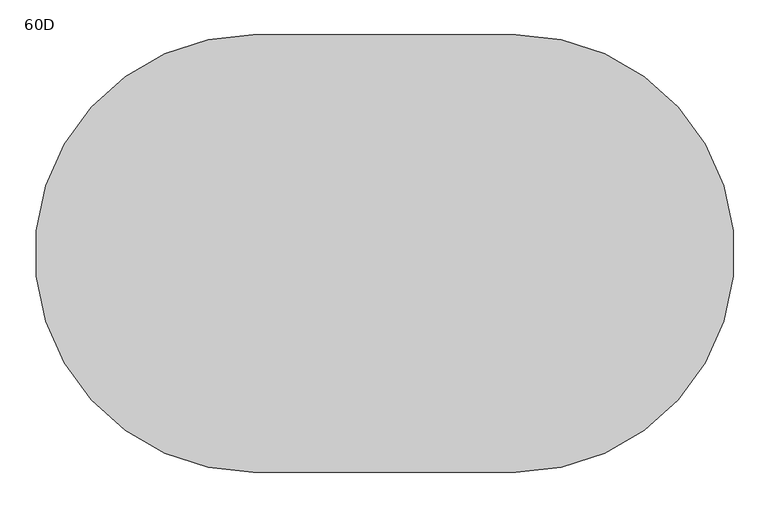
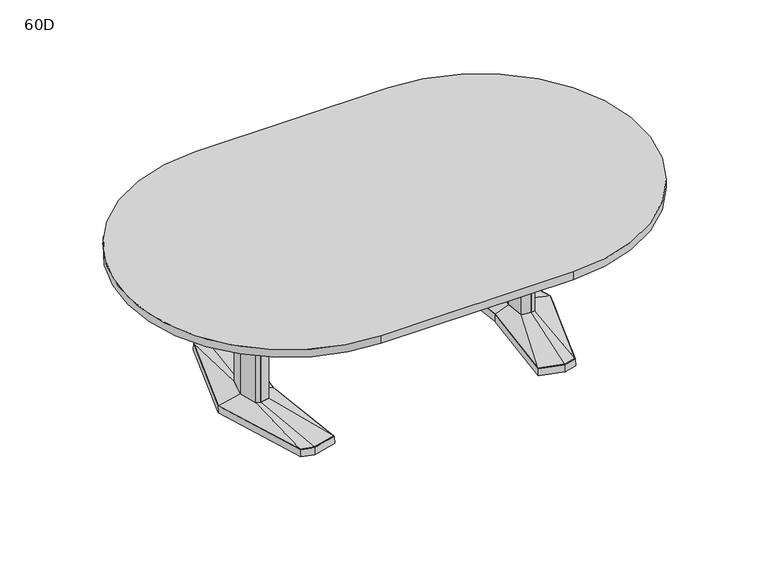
"""IFC4 building model written with IfcOpenShell, lengths in millimetres: furniture geometry, Coalesse_AM_Table_Conference_ETable2_Racetrack_96in_AluminiumBase : 60D."""

from ifc_helpers import new_model, si_unit, point, frame, frame_2d, origin, place, context, project, spatial, polyline, circle_curve, trimmed, segment, composite_curve, outline, extrude, faceted_brep, source, transform, mapped, element, save
from ifc_brep_helpers import plane_surface, spline_surface, advanced_brep


def furniture_60d_fc82c83b(model_context):
    return source(origin(), model_context, "Body", "SolidModel", [
        faceted_brep([(594.6806835, 455.5848221, 38.1), (485.1031277, 426.2263816, 38.1), (526.2663717, 0.0, 38.1), (485.1031277, -426.2263816, 38.1), (594.6806835, -455.5848221, 38.1), (650.8070396, -440.5478297, 38.1), (788.1184269, 0.0, 38.1), (650.8070396, 440.5478297, 38.1), (594.6806754, 457.2283104, 3.175), (652.0624472, 441.8549756, 3.175), (789.78125, 0.0, 3.175), (652.0624472, -441.8549756, 3.175), (594.6806754, -457.2283104, 3.175), (483.39375, -427.4118891, 3.175), (524.6714856, 0.0, 3.175), (483.39375, 427.4118891, 3.175), (598.270115, 428.3273875, 3.175), (493.2218228, 402.1057253, 3.175), (501.340518, 377.985069, 3.175), (601.8595466, 401.0699529, 3.175), (652.4191725, 387.524361, 3.175), (651.6131061, 414.0360954, 3.175), (598.270115, -428.3273875, 3.175), (651.6131061, -414.0360954, 3.175), (652.4191725, -387.524361, 3.175), (601.8595466, -401.0699529, 3.175), (501.340518, -377.985069, 3.175), (493.2218228, -402.1057253, 3.175), (724.8653621, 0.0, 3.175), (692.5959611, 120.4193755, 3.175), (643.9487222, 133.471665, 3.175), (564.0680526, 119.4176561, 3.175), (552.9368466, 0.0, 3.175), (564.0680526, -119.4176561, 3.175), (643.9487222, -133.471665, 3.175), (692.5959611, -120.4193755, 3.175), (598.270115, 428.3273875, 0.0), (651.6131061, 414.0360954, 0.0), (652.4191725, 387.524361, 0.0), (601.8595466, 401.0699529, 0.0), (501.340518, 377.985069, 0.0), (493.2218228, 402.1057253, 0.0), (598.270115, -428.3273875, 0.0), (493.2218228, -402.1057253, 0.0), (501.340518, -377.985069, 0.0), (601.8595466, -401.0699529, 0.0), (652.4191725, -387.524361, 0.0), (651.6131061, -414.0360954, 0.0), (724.8653621, 0.0, 0.0), (692.5959611, -120.4193755, 0.0), (643.9487222, -133.471665, 0.0), (564.0680526, -119.4176561, 0.0), (552.9368466, 0.0, 0.0), (564.0680526, 119.4176561, 0.0), (643.9487222, 133.471665, 0.0), (692.5959611, 120.4193755, 0.0)], [[[0, 1, 2, 3, 4, 5, 6, 7]], [[8, 9, 10, 11, 12, 13, 14, 15], [16, 17, 18, 19, 20, 21], [22, 23, 24, 25, 26, 27], [28, 29, 30, 31, 32, 33, 34, 35]], [[7, 9, 8, 0]], [[6, 10, 9, 7]], [[5, 11, 10, 6]], [[4, 12, 11, 5]], [[3, 13, 12, 4]], [[2, 14, 13, 3]], [[1, 15, 14, 2]], [[0, 8, 15, 1]], [[36, 37, 38, 39, 40, 41]], [[42, 43, 44, 45, 46, 47]], [[48, 49, 50, 51, 52, 53, 54, 55]], [[36, 16, 21, 37]], [[37, 21, 20, 38]], [[38, 20, 19, 39]], [[39, 19, 18, 40]], [[40, 18, 17, 41]], [[41, 17, 16, 36]], [[42, 22, 27, 43]], [[43, 27, 26, 44]], [[44, 26, 25, 45]], [[45, 25, 24, 46]], [[46, 24, 23, 47]], [[47, 23, 22, 42]], [[48, 28, 35, 49]], [[49, 35, 34, 50]], [[50, 34, 33, 51]], [[51, 33, 32, 52]], [[52, 32, 31, 53]], [[53, 31, 30, 54]], [[54, 30, 29, 55]], [[55, 29, 28, 48]]]),
        faceted_brep([(685.4210836, 0.0, 698.5), (661.4858546, 89.3188359, 698.5), (644.6324984, 93.8406728, 698.5), (642.2326511, 94.4845635, 698.5), (599.305146, 86.9320037, 698.5), (591.2020056, 0.0, 698.5), (599.305146, -86.9320037, 698.5), (642.2326511, -94.4845635, 698.5), (644.6324984, -93.8406728, 698.5), (661.4858546, -89.3188359, 698.5), (685.4210836, 0.0, 63.5), (661.4858546, -89.3188359, 63.5), (644.6324984, -93.8406728, 63.5), (642.2326511, -94.4845635, 63.5), (599.305146, -86.9320037, 63.5), (591.2020056, 0.0, 63.5), (599.305146, 86.9320037, 63.5), (642.2326511, 94.4845635, 63.5), (644.6324984, 93.8406728, 63.5), (661.4858546, 89.3188359, 63.5)], [[[0, 1, 2, 3, 4, 5, 6, 7, 8, 9]], [[10, 11, 12, 13, 14, 15, 16, 17, 18, 19]], [[9, 11, 10, 0]], [[8, 12, 11, 9]], [[7, 13, 12, 8]], [[6, 14, 13, 7]], [[5, 15, 14, 6]], [[4, 16, 15, 5]], [[3, 17, 16, 4]], [[2, 18, 17, 3]], [[1, 19, 18, 2]], [[0, 10, 19, 1]]]),
        advanced_brep(
        [(642.2326511, 94.4845635, 63.5), (599.305146, 86.9320037, 63.5), (591.2020056, 0.0, 63.5), (599.305146, -86.9320037, 63.5), (642.2326511, -94.4845635, 63.5), (661.4858546, -89.3188359, 63.5), (685.4210836, 0.0, 63.5), (661.4858546, 89.3188359, 63.5), (594.6806835, 455.5848221, 38.1), (650.8070396, 440.5478297, 38.1), (788.1184269, 0.0, 38.1), (650.8070396, -440.5478297, 38.1), (594.6806835, -455.5848221, 38.1), (485.1031277, -426.2263816, 38.1), (526.2663717, 0.0, 38.1), (485.1031277, 426.2263816, 38.1)],
        [
            (0, 1),
            (1, 2),
            (2, 3),
            (3, 4),
            (4, 5),
            (5, 6),
            (6, 7),
            (7, 0),
            (8, 9),
            (9, 10),
            (10, 11),
            (11, 12),
            (12, 13),
            (13, 14),
            (14, 15),
            (15, 8),
            (8, 0),
            (7, 9),
            (6, 10),
            (5, 11),
            (4, 12),
            (3, 13),
            (2, 14),
            (1, 15),
        ],
        [
            plane_surface(frame((635.3337991, 0.0, 63.5), z_axis=(0.0, 0.0, 1.0), x_axis=(-0.25884244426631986, -0.9659195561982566, 0.0))),
            plane_surface(frame((596.9458125, 0.0, 38.1), z_axis=(0.0, 0.0, -1.0), x_axis=(-0.25884244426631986, -0.9659195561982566, 0.0))),
            spline_surface(1, 1, [[(594.6806835, 455.5848221, 38.1), (650.8070396, 440.5478297, 38.1)], [(642.2326511, 94.4845635, 63.5), (661.4858546, 89.3188359, 63.5)]], [2, 2], [2, 2], [0.0, 1.0], [0.0, 1.0]),
            spline_surface(1, 1, [[(650.8070396, 440.5478297, 38.1), (788.1184269, 0.0, 38.1)], [(661.4858546, 89.3188359, 63.5), (685.4210836, 0.0, 63.5)]], [2, 2], [2, 2], [0.0, 1.0], [0.0, 1.0]),
            spline_surface(1, 1, [[(788.1184269, 0.0, 38.1), (650.8070396, -440.5478297, 38.1)], [(685.4210836, 0.0, 63.5), (661.4858546, -89.3188359, 63.5)]], [2, 2], [2, 2], [0.0, 1.0], [0.0, 1.0]),
            spline_surface(1, 1, [[(650.8070396, -440.5478297, 38.1), (594.6806835, -455.5848221, 38.1)], [(661.4858546, -89.3188359, 63.5), (642.2326511, -94.4845635, 63.5)]], [2, 2], [2, 2], [0.0, 1.0], [0.0, 1.0]),
            spline_surface(1, 1, [[(594.6806835, -455.5848221, 38.1), (485.1031277, -426.2263816, 38.1)], [(642.2326511, -94.4845635, 63.5), (599.305146, -86.9320037, 63.5)]], [2, 2], [2, 2], [0.0, 1.0], [0.0, 1.0]),
            spline_surface(1, 1, [[(485.1031277, -426.2263816, 38.1), (526.2663717, 0.0, 38.1)], [(599.305146, -86.9320037, 63.5), (591.2020056, 0.0, 63.5)]], [2, 2], [2, 2], [0.0, 1.0], [0.0, 1.0]),
            spline_surface(1, 1, [[(526.2663717, 0.0, 38.1), (485.1031277, 426.2263816, 38.1)], [(591.2020056, 0.0, 63.5), (599.305146, 86.9320037, 63.5)]], [2, 2], [2, 2], [0.0, 1.0], [0.0, 1.0]),
            spline_surface(1, 1, [[(485.1031277, 426.2263816, 38.1), (594.6806835, 455.5848221, 38.1)], [(599.305146, 86.9320037, 63.5), (642.2326511, 94.4845635, 63.5)]], [2, 2], [2, 2], [0.0, 1.0], [0.0, 1.0]),
        ],
        [
            (0, [[1, 2, 3, 4, 5, 6, 7, 8]]),
            (1, [[9, 10, 11, 12, 13, 14, 15, 16]]),
            (2, [[17, -8, 18, -9]]),
            (3, [[-18, -7, 19, -10]]),
            (4, [[-19, -6, 20, -11]]),
            (5, [[-20, -5, 21, -12]]),
            (6, [[-21, -4, 22, -13]]),
            (7, [[-22, -3, 23, -14]]),
            (8, [[-23, -2, 24, -15]]),
            (9, [[-24, -1, -17, -16]]),
        ],
    ),
        faceted_brep([(-594.6806835, 455.5848221, 38.1), (-650.8070396, 440.5478297, 38.1), (-788.1184269, 0.0, 38.1), (-650.8070396, -440.5478297, 38.1), (-594.6806835, -455.5848221, 38.1), (-485.1031277, -426.2263816, 38.1), (-526.2663717, 0.0, 38.1), (-485.1031277, 426.2263816, 38.1), (-594.6806754, 457.2283104, 3.175), (-483.39375, 427.4118891, 3.175), (-524.6714856, 0.0, 3.175), (-483.39375, -427.4118891, 3.175), (-594.6806754, -457.2283104, 3.175), (-652.0624472, -441.8549756, 3.175), (-789.78125, 0.0, 3.175), (-652.0624472, 441.8549756, 3.175), (-598.270115, 428.3273875, 3.175), (-651.6131061, 414.0360954, 3.175), (-652.4191725, 387.524361, 3.175), (-601.8595466, 401.0699529, 3.175), (-501.340518, 377.985069, 3.175), (-493.2218228, 402.1057253, 3.175), (-598.270115, -428.3273875, 3.175), (-493.2218228, -402.1057253, 3.175), (-501.340518, -377.985069, 3.175), (-601.8595466, -401.0699529, 3.175), (-652.4191725, -387.524361, 3.175), (-651.6131061, -414.0360954, 3.175), (-724.8653621, 0.0, 3.175), (-692.5959611, -120.4193755, 3.175), (-643.9487222, -133.471665, 3.175), (-564.0680526, -119.4176561, 3.175), (-552.9368466, 0.0, 3.175), (-564.0680526, 119.4176561, 3.175), (-643.9487222, 133.471665, 3.175), (-692.5959611, 120.4193755, 3.175), (-598.270115, 428.3273875, 0.0), (-493.2218228, 402.1057253, 0.0), (-501.340518, 377.985069, 0.0), (-601.8595466, 401.0699529, 0.0), (-652.4191725, 387.524361, 0.0), (-651.6131061, 414.0360954, 0.0), (-598.270115, -428.3273875, 0.0), (-651.6131061, -414.0360954, 0.0), (-652.4191725, -387.524361, 0.0), (-601.8595466, -401.0699529, 0.0), (-501.340518, -377.985069, 0.0), (-493.2218228, -402.1057253, 0.0), (-724.8653621, 0.0, 0.0), (-692.5959611, 120.4193755, 0.0), (-643.9487222, 133.471665, 0.0), (-564.0680526, 119.4176561, 0.0), (-552.9368466, 0.0, 0.0), (-564.0680526, -119.4176561, 0.0), (-643.9487222, -133.471665, 0.0), (-692.5959611, -120.4193755, 0.0)], [[[0, 1, 2, 3, 4, 5, 6, 7]], [[8, 9, 10, 11, 12, 13, 14, 15], [16, 17, 18, 19, 20, 21], [22, 23, 24, 25, 26, 27], [28, 29, 30, 31, 32, 33, 34, 35]], [[1, 0, 8, 15]], [[2, 1, 15, 14]], [[3, 2, 14, 13]], [[4, 3, 13, 12]], [[5, 4, 12, 11]], [[6, 5, 11, 10]], [[7, 6, 10, 9]], [[0, 7, 9, 8]], [[36, 37, 38, 39, 40, 41]], [[42, 43, 44, 45, 46, 47]], [[48, 49, 50, 51, 52, 53, 54, 55]], [[36, 41, 17, 16]], [[41, 40, 18, 17]], [[40, 39, 19, 18]], [[39, 38, 20, 19]], [[38, 37, 21, 20]], [[37, 36, 16, 21]], [[42, 47, 23, 22]], [[47, 46, 24, 23]], [[46, 45, 25, 24]], [[45, 44, 26, 25]], [[44, 43, 27, 26]], [[43, 42, 22, 27]], [[48, 55, 29, 28]], [[55, 54, 30, 29]], [[54, 53, 31, 30]], [[53, 52, 32, 31]], [[52, 51, 33, 32]], [[51, 50, 34, 33]], [[50, 49, 35, 34]], [[49, 48, 28, 35]]]),
        faceted_brep([(-685.4210836, 0.0, 698.5), (-661.4858546, -89.3188359, 698.5), (-644.6324984, -93.8406728, 698.5), (-642.2326511, -94.4845635, 698.5), (-599.305146, -86.9320037, 698.5), (-591.2020056, 0.0, 698.5), (-599.305146, 86.9320037, 698.5), (-642.2326511, 94.4845635, 698.5), (-644.6324984, 93.8406728, 698.5), (-661.4858546, 89.3188359, 698.5), (-685.4210836, 0.0, 63.5), (-661.4858546, 89.3188359, 63.5), (-644.6324984, 93.8406728, 63.5), (-642.2326511, 94.4845635, 63.5), (-599.305146, 86.9320037, 63.5), (-591.2020056, 0.0, 63.5), (-599.305146, -86.9320037, 63.5), (-642.2326511, -94.4845635, 63.5), (-644.6324984, -93.8406728, 63.5), (-661.4858546, -89.3188359, 63.5)], [[[0, 1, 2, 3, 4, 5, 6, 7, 8, 9]], [[10, 11, 12, 13, 14, 15, 16, 17, 18, 19]], [[1, 0, 10, 19]], [[2, 1, 19, 18]], [[3, 2, 18, 17]], [[4, 3, 17, 16]], [[5, 4, 16, 15]], [[6, 5, 15, 14]], [[7, 6, 14, 13]], [[8, 7, 13, 12]], [[9, 8, 12, 11]], [[0, 9, 11, 10]]]),
        advanced_brep(
        [(-642.2326511, 94.4845635, 63.5), (-661.4858546, 89.3188359, 63.5), (-685.4210836, 0.0, 63.5), (-661.4858546, -89.3188359, 63.5), (-642.2326511, -94.4845635, 63.5), (-599.305146, -86.9320037, 63.5), (-591.2020056, 0.0, 63.5), (-599.305146, 86.9320037, 63.5), (-594.6806835, 455.5848221, 38.1), (-485.1031277, 426.2263816, 38.1), (-526.2663717, 0.0, 38.1), (-485.1031277, -426.2263816, 38.1), (-594.6806835, -455.5848221, 38.1), (-650.8070396, -440.5478297, 38.1), (-788.1184269, 0.0, 38.1), (-650.8070396, 440.5478297, 38.1)],
        [
            (0, 1),
            (1, 2),
            (2, 3),
            (3, 4),
            (4, 5),
            (5, 6),
            (6, 7),
            (7, 0),
            (8, 9),
            (9, 10),
            (10, 11),
            (11, 12),
            (12, 13),
            (13, 14),
            (14, 15),
            (15, 8),
            (15, 1),
            (0, 8),
            (14, 2),
            (13, 3),
            (12, 4),
            (11, 5),
            (10, 6),
            (9, 7),
        ],
        [
            plane_surface(frame((-635.3337991, 0.0, 63.5), z_axis=(0.0, 0.0, 1.0), x_axis=(0.25884244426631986, -0.9659195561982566, 0.0))),
            plane_surface(frame((-596.9458125, 0.0, 38.1), z_axis=(0.0, 0.0, -1.0), x_axis=(0.25884244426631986, -0.9659195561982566, 0.0))),
            spline_surface(1, 1, [[(-594.6806835, 455.5848221, 38.1), (-642.2326511, 94.4845635, 63.5)], [(-650.8070396, 440.5478297, 38.1), (-661.4858546, 89.3188359, 63.5)]], [2, 2], [2, 2], [0.0, 1.0], [0.0, 1.0]),
            spline_surface(1, 1, [[(-650.8070396, 440.5478297, 38.1), (-661.4858546, 89.3188359, 63.5)], [(-788.1184269, 0.0, 38.1), (-685.4210836, 0.0, 63.5)]], [2, 2], [2, 2], [0.0, 1.0], [0.0, 1.0]),
            spline_surface(1, 1, [[(-788.1184269, 0.0, 38.1), (-685.4210836, 0.0, 63.5)], [(-650.8070396, -440.5478297, 38.1), (-661.4858546, -89.3188359, 63.5)]], [2, 2], [2, 2], [0.0, 1.0], [0.0, 1.0]),
            spline_surface(1, 1, [[(-650.8070396, -440.5478297, 38.1), (-661.4858546, -89.3188359, 63.5)], [(-594.6806835, -455.5848221, 38.1), (-642.2326511, -94.4845635, 63.5)]], [2, 2], [2, 2], [0.0, 1.0], [0.0, 1.0]),
            spline_surface(1, 1, [[(-594.6806835, -455.5848221, 38.1), (-642.2326511, -94.4845635, 63.5)], [(-485.1031277, -426.2263816, 38.1), (-599.305146, -86.9320037, 63.5)]], [2, 2], [2, 2], [0.0, 1.0], [0.0, 1.0]),
            spline_surface(1, 1, [[(-485.1031277, -426.2263816, 38.1), (-599.305146, -86.9320037, 63.5)], [(-526.2663717, 0.0, 38.1), (-591.2020056, 0.0, 63.5)]], [2, 2], [2, 2], [0.0, 1.0], [0.0, 1.0]),
            spline_surface(1, 1, [[(-526.2663717, 0.0, 38.1), (-591.2020056, 0.0, 63.5)], [(-485.1031277, 426.2263816, 38.1), (-599.305146, 86.9320037, 63.5)]], [2, 2], [2, 2], [0.0, 1.0], [0.0, 1.0]),
            spline_surface(1, 1, [[(-485.1031277, 426.2263816, 38.1), (-599.305146, 86.9320037, 63.5)], [(-594.6806835, 455.5848221, 38.1), (-642.2326511, 94.4845635, 63.5)]], [2, 2], [2, 2], [0.0, 1.0], [0.0, 1.0]),
        ],
        [
            (0, [[1, 2, 3, 4, 5, 6, 7, 8]]),
            (1, [[9, 10, 11, 12, 13, 14, 15, 16]]),
            (2, [[-16, 17, -1, 18]]),
            (3, [[-15, 19, -2, -17]]),
            (4, [[-14, 20, -3, -19]]),
            (5, [[-13, 21, -4, -20]]),
            (6, [[-12, 22, -5, -21]]),
            (7, [[-11, 23, -6, -22]]),
            (8, [[-10, 24, -7, -23]]),
            (9, [[-9, -18, -8, -24]]),
        ],
    ),
        extrude(outline(polyline([(96.8375, 698.5), (103.1875, 698.5), (103.1875, 476.25), (-103.1875, 476.25), (-103.1875, 698.5), (-96.8375, 698.5), (-96.8375, 482.6), (96.8375, 482.6), (96.8375, 698.5)])), frame((-597.9364207, 0.0, 0.0), z_axis=(1.0, 0.0, 0.0), x_axis=(0.0, 1.0, 0.0)), (0.0, 0.0, 1.0), 1195.8728415),
        extrude(outline(composite_curve([segment(trimmed(circle_curve(frame_2d((457.2, 0.0)), 762.0), [point((457.2, 762.0))], [point((457.2, -762.0))], False, "CARTESIAN"), True, "CONTINUOUS"), segment(polyline([(457.2, -762.0), (-457.2, -762.0)]), True, "CONTINUOUS"), segment(trimmed(circle_curve(frame_2d((-457.2, 0.0)), 762.0), [point((-457.2, -762.0))], [point((-457.2, 762.0))], False, "CARTESIAN"), True, "CONTINUOUS"), segment(polyline([(-457.2, 762.0), (457.2, 762.0)]), True, "CONTINUOUS")], self_intersect=False)), frame((0.0, 0.0, 698.5), z_axis=(0.0, 0.0, 1.0), x_axis=(1.0, 0.0, 0.0)), (0.0, 0.0, 1.0), 38.1),
    ])


if __name__ == "__main__":
    model = new_model("IFC4")
    model_context = context("Model", 3, world=origin())
    ifc_project = project(units=[si_unit("LENGTHUNIT", "METRE", prefix="MILLI")], contexts=[model_context])
    site = spatial("IfcSite", under=ifc_project)
    building = spatial("IfcBuilding", under=site)
    placement = place(None, origin())
    furniture_60d_shape = furniture_60d_fc82c83b(model_context)
    element("IfcFurniture", 1, ObjectType="Coalesse_AM_Table_Conference_ETable2_Racetrack_96in_AluminiumBase : 60D", at=placement, inside=building, context=model_context, shape_type="MappedRepresentation", body=[
        mapped(furniture_60d_shape, transform((0.0, 0.0, 0.0), x_axis=(1.0, 0.0, 0.0), y_axis=(0.0, 1.0, 0.0), z_axis=(0.0, 0.0, 1.0))),
    ])
    save(model, "model.ifc")
